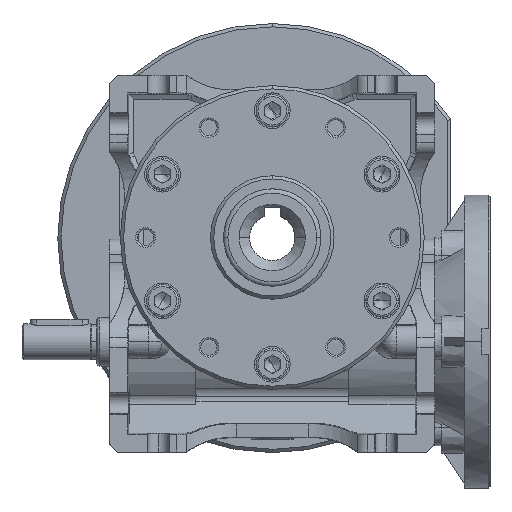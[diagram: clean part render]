
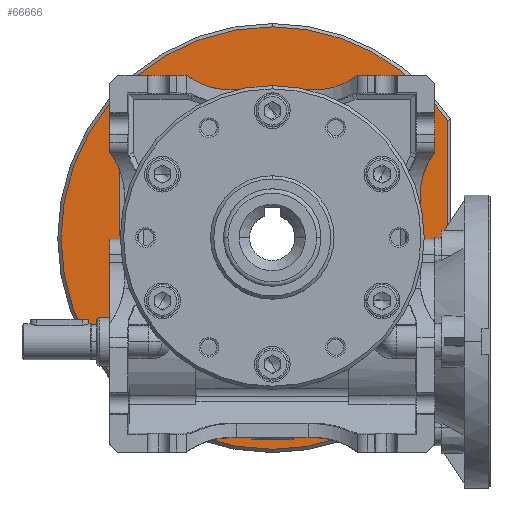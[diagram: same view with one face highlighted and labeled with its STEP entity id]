
A CAD part, top view. The second image highlights one B-rep face of the part: STEP entity #66666.
In plain terms, the highlighted planar face has unit normal (0, 0, 1).
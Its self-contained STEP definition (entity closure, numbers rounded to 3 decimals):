
#29 = AXIS2_PLACEMENT_3D ( 'NONE', #4479, #62595, #26310 ) ;
#954 = CARTESIAN_POINT ( 'NONE',  ( 0., -65., -49. ) ) ;
#2981 = CARTESIAN_POINT ( 'NONE',  ( -40.659, -45.159, -49. ) ) ;
#4100 = CIRCLE ( 'NONE', #59059, 4.5 ) ;
#4479 = CARTESIAN_POINT ( 'NONE',  ( 0., 0., -49. ) ) ;
#4997 = DIRECTION ( 'NONE',  ( 0., -1., 0. ) ) ;
#6353 = DIRECTION ( 'NONE',  ( 0., 0., -1. ) ) ;
#6929 = FACE_BOUND ( 'NONE', #54587, .T. ) ;
#7386 = PLANE ( 'NONE',  #9813 ) ;
#7458 = EDGE_CURVE ( 'NONE', #16068, #23832, #80343, .T. ) ;
#7920 = ORIENTED_EDGE ( 'NONE', *, *, #55423, .T. ) ;
#8303 = FACE_BOUND ( 'NONE', #81420, .T. ) ;
#8644 = AXIS2_PLACEMENT_3D ( 'NONE', #49079, #84982, #63055 ) ;
#9318 = ORIENTED_EDGE ( 'NONE', *, *, #41515, .T. ) ;
#9813 = AXIS2_PLACEMENT_3D ( 'NONE', #43197, #14829, #49287 ) ;
#10482 = EDGE_CURVE ( 'NONE', #23832, #33721, #72606, .T. ) ;
#11298 = CARTESIAN_POINT ( 'NONE',  ( 54., 36.18, -49. ) ) ;
#11323 = DIRECTION ( 'NONE',  ( 0., -1., 0. ) ) ;
#11599 = CIRCLE ( 'NONE', #66615, 4.5 ) ;
#11661 = VERTEX_POINT ( 'NONE', #24368 ) ;
#13977 = CARTESIAN_POINT ( 'NONE',  ( 40.659, 36.159, -49. ) ) ;
#14651 = CIRCLE ( 'NONE', #57753, 4.5 ) ;
#14829 = DIRECTION ( 'NONE',  ( 0., 0., -1. ) ) ;
#14872 = ORIENTED_EDGE ( 'NONE', *, *, #58814, .T. ) ;
#14938 = VERTEX_POINT ( 'NONE', #55488 ) ;
#14975 = LINE ( 'NONE', #36798, #32488 ) ;
#15389 = EDGE_LOOP ( 'NONE', ( #68454, #14872 ) ) ;
#15671 = EDGE_CURVE ( 'NONE', #33721, #91433, #71940, .T. ) ;
#16068 = VERTEX_POINT ( 'NONE', #11298 ) ;
#16307 = EDGE_CURVE ( 'NONE', #11661, #43006, #77761, .T. ) ;
#17626 = CARTESIAN_POINT ( 'NONE',  ( 0., -45.75, -49. ) ) ;
#19445 = EDGE_LOOP ( 'NONE', ( #37222, #46793, #61555, #66363 ) ) ;
#21862 = CARTESIAN_POINT ( 'NONE',  ( 40.659, -36.159, -49. ) ) ;
#21884 = CARTESIAN_POINT ( 'NONE',  ( -40.659, 36.159, -49. ) ) ;
#23832 = VERTEX_POINT ( 'NONE', #87013 ) ;
#24368 = CARTESIAN_POINT ( 'NONE',  ( 0., 45.75, -49. ) ) ;
#24667 = CARTESIAN_POINT ( 'NONE',  ( 0., 0., -49. ) ) ;
#25183 = AXIS2_PLACEMENT_3D ( 'NONE', #74331, #60802, #89256 ) ;
#26310 = DIRECTION ( 'NONE',  ( 0., 1., 0. ) ) ;
#27126 = AXIS2_PLACEMENT_3D ( 'NONE', #67292, #67751, #81764 ) ;
#28374 = CARTESIAN_POINT ( 'NONE',  ( 40.659, 40.659, -49. ) ) ;
#28878 = CARTESIAN_POINT ( 'NONE',  ( -40.659, 40.659, -49. ) ) ;
#29148 = EDGE_CURVE ( 'NONE', #14938, #45749, #65120, .T. ) ;
#29608 = EDGE_CURVE ( 'NONE', #91433, #16068, #14975, .T. ) ;
#30252 = DIRECTION ( 'NONE',  ( 0., 1., 0. ) ) ;
#30917 = CIRCLE ( 'NONE', #91998, 4.5 ) ;
#32488 = VECTOR ( 'NONE', #87603, 1000. ) ;
#33721 = VERTEX_POINT ( 'NONE', #954 ) ;
#33968 = AXIS2_PLACEMENT_3D ( 'NONE', #24667, #80594, #66563 ) ;
#34480 = DIRECTION ( 'NONE',  ( 0., -1., 0. ) ) ;
#35163 = AXIS2_PLACEMENT_3D ( 'NONE', #59754, #88661, #11323 ) ;
#35286 = FACE_BOUND ( 'NONE', #90685, .T. ) ;
#35630 = CARTESIAN_POINT ( 'NONE',  ( 40.659, -40.659, -49. ) ) ;
#36535 = DIRECTION ( 'NONE',  ( 0., -1., 0. ) ) ;
#36798 = CARTESIAN_POINT ( 'NONE',  ( 54., 0., -49. ) ) ;
#37222 = ORIENTED_EDGE ( 'NONE', *, *, #7458, .T. ) ;
#37391 = VERTEX_POINT ( 'NONE', #83457 ) ;
#37530 = EDGE_CURVE ( 'NONE', #45749, #14938, #11599, .T. ) ;
#38543 = ORIENTED_EDGE ( 'NONE', *, *, #29148, .T. ) ;
#40153 = CIRCLE ( 'NONE', #29, 45.75 ) ;
#40332 = DIRECTION ( 'NONE',  ( 0., 0., -1. ) ) ;
#41515 = EDGE_CURVE ( 'NONE', #69110, #49269, #83401, .T. ) ;
#42344 = CARTESIAN_POINT ( 'NONE',  ( 40.659, -45.159, -49. ) ) ;
#43006 = VERTEX_POINT ( 'NONE', #17626 ) ;
#43033 = DIRECTION ( 'NONE',  ( 0., -1., 0. ) ) ;
#43076 = CARTESIAN_POINT ( 'NONE',  ( 54., -36.18, -49. ) ) ;
#43197 = CARTESIAN_POINT ( 'NONE',  ( -19., 0., -49. ) ) ;
#43751 = EDGE_CURVE ( 'NONE', #55331, #37391, #4100, .T. ) ;
#43759 = ORIENTED_EDGE ( 'NONE', *, *, #43751, .T. ) ;
#45749 = VERTEX_POINT ( 'NONE', #21884 ) ;
#46091 = EDGE_CURVE ( 'NONE', #49269, #69110, #30917, .T. ) ;
#46793 = ORIENTED_EDGE ( 'NONE', *, *, #10482, .T. ) ;
#47059 = EDGE_CURVE ( 'NONE', #74421, #48552, #68323, .T. ) ;
#47516 = DIRECTION ( 'NONE',  ( 0., -1., 0. ) ) ;
#48552 = VERTEX_POINT ( 'NONE', #75170 ) ;
#49079 = CARTESIAN_POINT ( 'NONE',  ( -40.659, 40.659, -49. ) ) ;
#49269 = VERTEX_POINT ( 'NONE', #21862 ) ;
#49287 = DIRECTION ( 'NONE',  ( 0., -1., 0. ) ) ;
#51395 = CARTESIAN_POINT ( 'NONE',  ( 0., 0., -49. ) ) ;
#54587 = EDGE_LOOP ( 'NONE', ( #43759, #7920 ) ) ;
#54775 = CARTESIAN_POINT ( 'NONE',  ( 40.659, -40.659, -49. ) ) ;
#55331 = VERTEX_POINT ( 'NONE', #13977 ) ;
#55423 = EDGE_CURVE ( 'NONE', #37391, #55331, #14651, .T. ) ;
#55488 = CARTESIAN_POINT ( 'NONE',  ( -40.659, 45.159, -49. ) ) ;
#56279 = FACE_BOUND ( 'NONE', #15389, .T. ) ;
#57753 = AXIS2_PLACEMENT_3D ( 'NONE', #28374, #82954, #47516 ) ;
#58687 = CARTESIAN_POINT ( 'NONE',  ( 0., 0., -49. ) ) ;
#58814 = EDGE_CURVE ( 'NONE', #43006, #11661, #40153, .T. ) ;
#59059 = AXIS2_PLACEMENT_3D ( 'NONE', #62628, #84557, #43033 ) ;
#59495 = AXIS2_PLACEMENT_3D ( 'NONE', #51395, #64909, #78021 ) ;
#59754 = CARTESIAN_POINT ( 'NONE',  ( -40.659, -40.659, -49. ) ) ;
#60521 = CIRCLE ( 'NONE', #35163, 4.5 ) ;
#60802 = DIRECTION ( 'NONE',  ( 0., 0., -1. ) ) ;
#61555 = ORIENTED_EDGE ( 'NONE', *, *, #15671, .T. ) ;
#62595 = DIRECTION ( 'NONE',  ( 0., 0., -1. ) ) ;
#62628 = CARTESIAN_POINT ( 'NONE',  ( 40.659, 40.659, -49. ) ) ;
#63055 = DIRECTION ( 'NONE',  ( 0., -1., 0. ) ) ;
#63842 = DIRECTION ( 'NONE',  ( 0., 0., -1. ) ) ;
#64350 = AXIS2_PLACEMENT_3D ( 'NONE', #58687, #63842, #30252 ) ;
#64909 = DIRECTION ( 'NONE',  ( 0., 0., 1. ) ) ;
#65120 = CIRCLE ( 'NONE', #8644, 4.5 ) ;
#65194 = EDGE_LOOP ( 'NONE', ( #84039, #38543 ) ) ;
#66363 = ORIENTED_EDGE ( 'NONE', *, *, #29608, .T. ) ;
#66563 = DIRECTION ( 'NONE',  ( 0., -1., 0. ) ) ;
#66615 = AXIS2_PLACEMENT_3D ( 'NONE', #28878, #71738, #34480 ) ;
#66666 = ADVANCED_FACE ( 'NONE', ( #56279, #70259, #72091, #6929, #35286, #8303 ), #7386, .F. ) ;
#67292 = CARTESIAN_POINT ( 'NONE',  ( 0., 0., -49. ) ) ;
#67418 = EDGE_CURVE ( 'NONE', #48552, #74421, #60521, .T. ) ;
#67751 = DIRECTION ( 'NONE',  ( 0., 0., 1. ) ) ;
#68323 = CIRCLE ( 'NONE', #25183, 4.5 ) ;
#68454 = ORIENTED_EDGE ( 'NONE', *, *, #16307, .T. ) ;
#69110 = VERTEX_POINT ( 'NONE', #42344 ) ;
#70259 = FACE_OUTER_BOUND ( 'NONE', #19445, .T. ) ;
#70988 = ORIENTED_EDGE ( 'NONE', *, *, #67418, .T. ) ;
#71738 = DIRECTION ( 'NONE',  ( 0., 0., -1. ) ) ;
#71940 = CIRCLE ( 'NONE', #27126, 65. ) ;
#72091 = FACE_BOUND ( 'NONE', #65194, .T. ) ;
#72606 = CIRCLE ( 'NONE', #33968, 65. ) ;
#74331 = CARTESIAN_POINT ( 'NONE',  ( -40.659, -40.659, -49. ) ) ;
#74421 = VERTEX_POINT ( 'NONE', #2981 ) ;
#75170 = CARTESIAN_POINT ( 'NONE',  ( -40.659, -36.159, -49. ) ) ;
#75959 = AXIS2_PLACEMENT_3D ( 'NONE', #54775, #40332, #4997 ) ;
#77761 = CIRCLE ( 'NONE', #64350, 45.75 ) ;
#78021 = DIRECTION ( 'NONE',  ( 0., -1., 0. ) ) ;
#80343 = CIRCLE ( 'NONE', #59495, 65. ) ;
#80494 = ORIENTED_EDGE ( 'NONE', *, *, #47059, .T. ) ;
#80594 = DIRECTION ( 'NONE',  ( 0., 0., 1. ) ) ;
#81420 = EDGE_LOOP ( 'NONE', ( #80494, #70988 ) ) ;
#81764 = DIRECTION ( 'NONE',  ( 0., -1., 0. ) ) ;
#82458 = ORIENTED_EDGE ( 'NONE', *, *, #46091, .T. ) ;
#82954 = DIRECTION ( 'NONE',  ( 0., 0., -1. ) ) ;
#83401 = CIRCLE ( 'NONE', #75959, 4.5 ) ;
#83457 = CARTESIAN_POINT ( 'NONE',  ( 40.659, 45.159, -49. ) ) ;
#84039 = ORIENTED_EDGE ( 'NONE', *, *, #37530, .T. ) ;
#84557 = DIRECTION ( 'NONE',  ( 0., 0., -1. ) ) ;
#84982 = DIRECTION ( 'NONE',  ( 0., 0., -1. ) ) ;
#87013 = CARTESIAN_POINT ( 'NONE',  ( 0., 65., -49. ) ) ;
#87603 = DIRECTION ( 'NONE',  ( 0., 1., 0. ) ) ;
#88661 = DIRECTION ( 'NONE',  ( 0., 0., -1. ) ) ;
#89256 = DIRECTION ( 'NONE',  ( 0., -1., 0. ) ) ;
#90685 = EDGE_LOOP ( 'NONE', ( #9318, #82458 ) ) ;
#91433 = VERTEX_POINT ( 'NONE', #43076 ) ;
#91998 = AXIS2_PLACEMENT_3D ( 'NONE', #35630, #6353, #36535 ) ;
